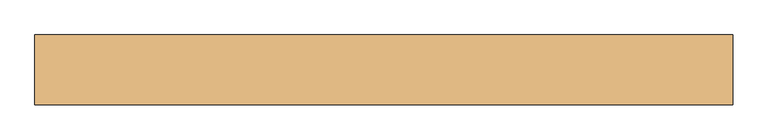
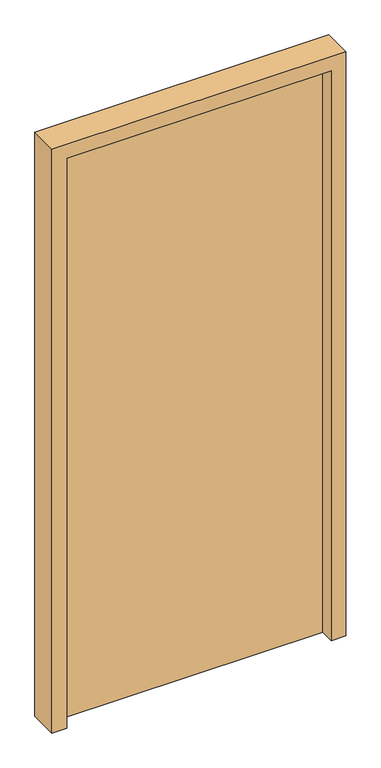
"""IFC4 building model written with IfcOpenShell, lengths in millimetres: door geometry, (Dr)_ДУ(распашная)_1Ст_Прямоугольная : (Вн)_ДГ(1.00х2.1(h))."""

from ifc_helpers import new_model, si_unit, frame, origin, origin_with_axes, place, context, project, spatial, polyline, outline, extrude, source, transform, mapped, element, save


def door_57be7e1d(model_context):
    return source(origin(), model_context, "Body", "SweptSolid", [
        extrude(outline(polyline([(-450.0, 60.0), (450.0, 60.0), (450.0, 10.0), (-450.0, 10.0), (-450.0, 60.0)])), origin_with_axes(), (0.0, 0.0, 1.0), 2050.0),
        extrude(outline(polyline([(0.0, -500.0), (0.0, -450.0), (2050.0, -450.0), (2050.0, 450.0), (0.0, 450.0), (0.0, 500.0), (2100.0, 500.0), (2100.0, -500.0), (0.0, -500.0)])), frame((0.0, -40.0, 0.0), z_axis=(0.0, 1.0, 0.0), x_axis=(0.0, 0.0, 1.0)), (0.0, 0.0, 1.0), 100.0),
    ])


if __name__ == "__main__":
    model = new_model("IFC4")
    model_context = context("Model", 3, world=origin())
    ifc_project = project(units=[si_unit("LENGTHUNIT", "METRE", prefix="MILLI")], contexts=[model_context])
    site = spatial("IfcSite", under=ifc_project)
    building = spatial("IfcBuilding", under=site)
    placement = place(None, origin())
    door_shape = door_57be7e1d(model_context)
    element("IfcDoor", 1, ObjectType="(Dr)_ДУ(распашная)_1Ст_Прямоугольная : (Вн)_ДГ(1.00х2.1(h))", at=placement, inside=building, context=model_context, shape_type="MappedRepresentation", body=[
        mapped(door_shape, transform((0.0, 0.0, 0.0), x_axis=(1.0, 0.0, 0.0), y_axis=(0.0, 1.0, 0.0), z_axis=(0.0, 0.0, 1.0))),
    ])
    save(model, "model.ifc")
